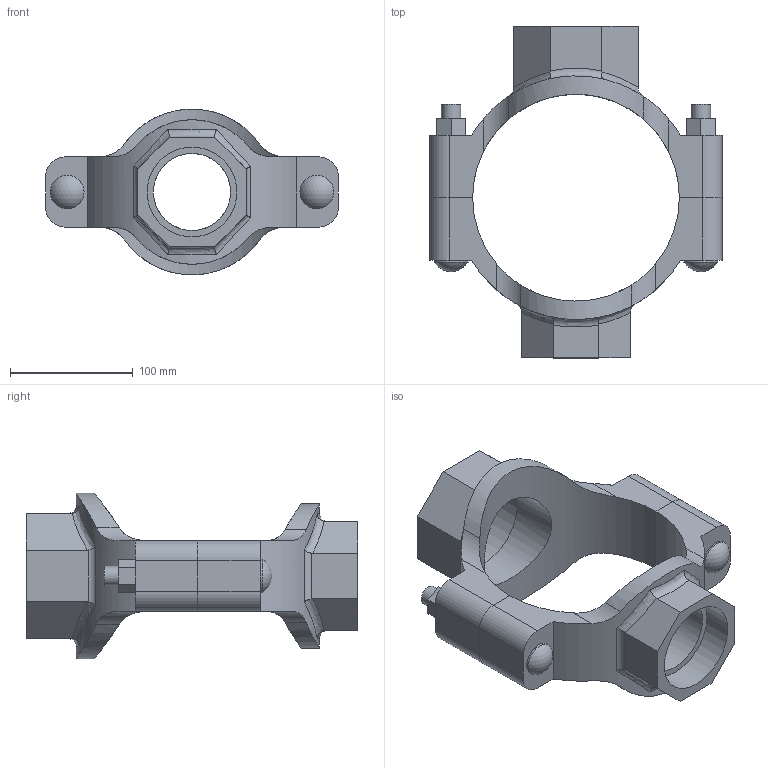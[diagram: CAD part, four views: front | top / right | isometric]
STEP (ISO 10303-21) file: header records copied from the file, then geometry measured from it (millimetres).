
FILE_DESCRIPTION(/* description */ ('VIC MECH-T BRANCH OUTLET CROSS STYLE 920N (THD)','CAx-IF Rec.Pracs.---Representation and Presentation of Product Manufacturing Information (PMI)---4.0---2014-10-13'),/* implementation_level */ '2;1');
FILE_NAME(/* name */ 'C:\Users\Vjadhav\AppData\Roaming\Autodesk\ApplicationPlugins\Back Up\Victaulic_IPS_Mechanical-Cross Outlet_Style 920N (FPT)\Victaulic_IPS_Mechanical-Cross Outlet_06.0x03.0x02.5 (150x80x65).stp',/* time_stamp */ '2020-08-06T18:59:42+05:00',/* author */ ('Vjadhav'),/* organization */ ('Victaulic'),/* preprocessor_version */ 'ST-DEVELOPER v17.2',/* originating_system */ 'Autodesk Inventor 2019',/* authorisation */ '');
FILE_SCHEMA (('AP242_MANAGED_MODEL_BASED_3D_ENGINEERING_MIM_LF { 1 0 10303 442 1 1 4 }'));
Length unit declared in the file: inch
Products named in the file (3): 920NT-06.0x03.0x02.5; 920T-06.0x03.0; 920T-06.0x02.5
Assembly tree (2 placements, depth 2):
  920NT-06.0x03.0x02.5
    920T-06.0x03.0
    920T-06.0x02.5
Bounding box: 238.25 x 270 x 134.74 mm (x, y, z)
Volume: 1052577.7 mm3; surface area: 193515.8 mm2
Topology: 2 solids, 2 shells, 128 faces, 338 edges, 228 vertices
Faces by surface type: plane 68, cylinder 46, bspline 8, torus 4, sphere 2
Full cylindrical faces by diameter (mm): 15.875 x4, 27.496 x2, 62.738 x1, 73.025 x1, 77.787 x1, 88.9 x1
Entity records: 5044 total; most frequent: CARTESIAN_POINT 1639, ORIENTED_EDGE 676, DIRECTION 628, EDGE_CURVE 338, VERTEX_POINT 228, AXIS2_PLACEMENT_3D 223, LINE 182, VECTOR 182
